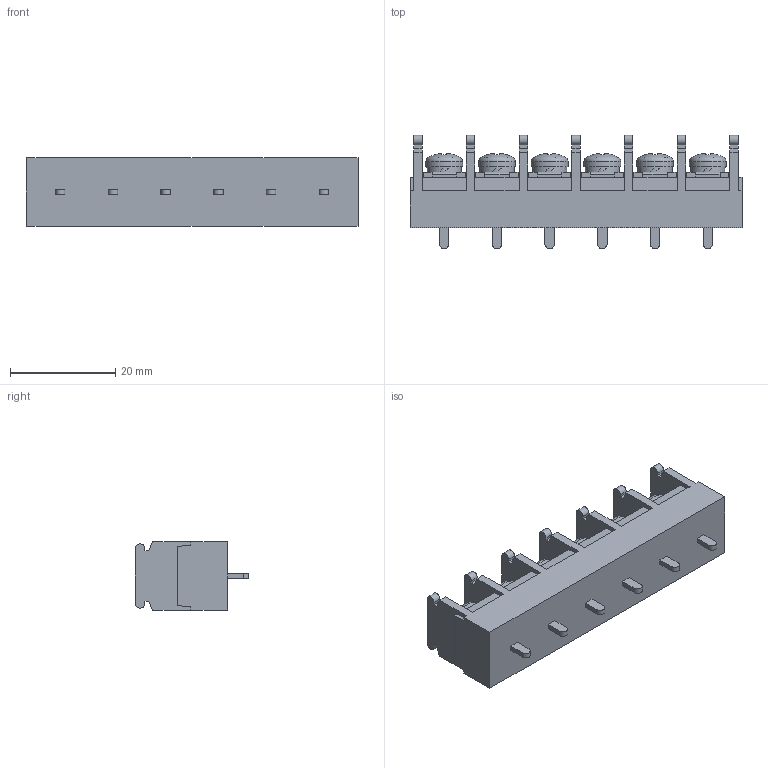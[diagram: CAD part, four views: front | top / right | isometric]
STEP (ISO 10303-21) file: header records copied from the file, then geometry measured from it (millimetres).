
FILE_DESCRIPTION(/* description */ ('Alibre Inc.'),/* implementation_level */ '2;1');
FILE_NAME(/* name */ 'export0',/* time_stamp */ '2015-10-17T18:06:33+09:00',/* author */ (''),/* organization */ (''),/* preprocessor_version */ 'ST-DEVELOPER v14',/* originating_system */ 'Alibre',/* authorisation */ '');
FILE_SCHEMA (('CONFIG_CONTROL_DESIGN'));
Length unit declared in the file: centimetre
Products named in the file (1): ID_1
Bounding box: 63 x 21.5 x 13 mm (x, y, z)
Volume: 9698.9 mm3; surface area: 5718.5 mm2
Topology: 1 solids, 17 shells, 782 faces, 2112 edges, 1402 vertices
Faces by surface type: plane 586, bspline 104, cylinder 50, cone 24, torus 12, sphere 6
Full cylindrical faces by diameter (mm): 4 x6, 6.5 x6, 7 x6
Entity records: 23767 total; most frequent: CARTESIAN_POINT 5363, ORIENTED_EDGE 4140, DIRECTION 2858, EDGE_CURVE 2070, VECTOR 1546, LINE 1546, VERTEX_POINT 1384, AXIS2_PLACEMENT_3D 945
